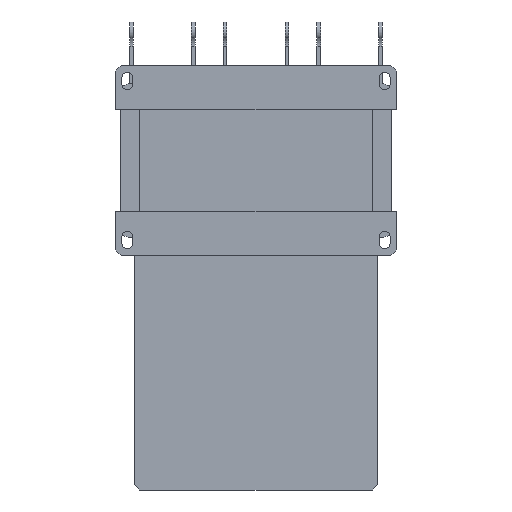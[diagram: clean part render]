
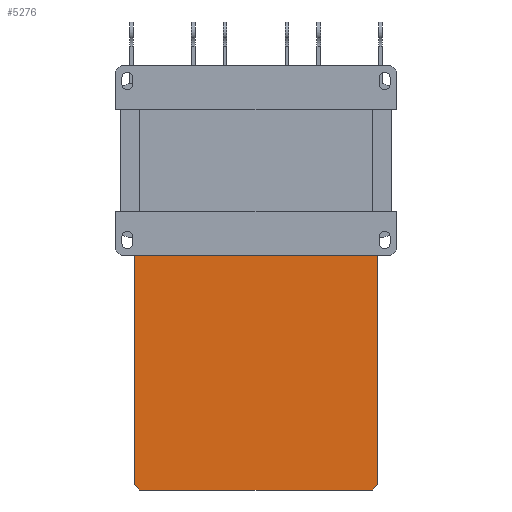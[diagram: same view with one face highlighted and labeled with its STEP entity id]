
A CAD part, front view. The second image highlights one B-rep face of the part: STEP entity #5276.
In plain terms, the highlighted planar face has unit normal (0, -1, 0).
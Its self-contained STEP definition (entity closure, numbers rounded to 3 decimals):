
#592=FACE_OUTER_BOUND('',#936,.T.);
#936=EDGE_LOOP('',(#4325,#4326,#4327,#4328,#4329,#4330));
#1401=LINE('',#8447,#1949);
#1407=LINE('',#8458,#1955);
#1413=LINE('',#8470,#1961);
#1417=LINE('',#8478,#1965);
#1418=LINE('',#8481,#1966);
#1422=LINE('',#8488,#1970);
#1949=VECTOR('',#6887,10.);
#1955=VECTOR('',#6895,10.);
#1961=VECTOR('',#6905,10.);
#1965=VECTOR('',#6911,10.);
#1966=VECTOR('',#6914,10.);
#1970=VECTOR('',#6920,10.);
#2467=VERTEX_POINT('',#8445);
#2468=VERTEX_POINT('',#8446);
#2472=VERTEX_POINT('',#8456);
#2476=VERTEX_POINT('',#8468);
#2479=VERTEX_POINT('',#8476);
#2480=VERTEX_POINT('',#8480);
#3099=EDGE_CURVE('',#2467,#2468,#1401,.T.);
#3105=EDGE_CURVE('',#2467,#2472,#1407,.T.);
#3111=EDGE_CURVE('',#2476,#2472,#1413,.T.);
#3115=EDGE_CURVE('',#2479,#2476,#1417,.T.);
#3116=EDGE_CURVE('',#2468,#2480,#1418,.T.);
#3120=EDGE_CURVE('',#2479,#2480,#1422,.T.);
#4325=ORIENTED_EDGE('',*,*,#3099,.F.);
#4326=ORIENTED_EDGE('',*,*,#3105,.T.);
#4327=ORIENTED_EDGE('',*,*,#3111,.F.);
#4328=ORIENTED_EDGE('',*,*,#3115,.F.);
#4329=ORIENTED_EDGE('',*,*,#3120,.T.);
#4330=ORIENTED_EDGE('',*,*,#3116,.F.);
#5004=PLANE('',#5760);
#5276=ADVANCED_FACE('',(#592),#5004,.T.);
#5760=AXIS2_PLACEMENT_3D('',#8493,#6927,#6928);
#6887=DIRECTION('',(-0.707,0.,0.707));
#6895=DIRECTION('',(1.,0.,0.));
#6905=DIRECTION('',(-0.707,0.,-0.707));
#6911=DIRECTION('',(0.,0.,-1.));
#6914=DIRECTION('',(0.,0.,1.));
#6920=DIRECTION('',(-1.,0.,0.));
#6927=DIRECTION('center_axis',(0.,-1.,0.));
#6928=DIRECTION('ref_axis',(0.,0.,-1.));
#8445=CARTESIAN_POINT('',(-124.,34.,-352.));
#8446=CARTESIAN_POINT('',(-130.,34.,-346.));
#8447=CARTESIAN_POINT('',(-166.875,34.,-309.125));
#8456=CARTESIAN_POINT('',(124.,34.,-352.));
#8458=CARTESIAN_POINT('',(0.,34.,-352.));
#8468=CARTESIAN_POINT('',(130.,34.,-346.));
#8470=CARTESIAN_POINT('',(166.875,34.,-309.125));
#8476=CARTESIAN_POINT('',(130.,34.,-62.5));
#8478=CARTESIAN_POINT('',(130.,34.,-62.5));
#8480=CARTESIAN_POINT('',(-130.,34.,-62.5));
#8481=CARTESIAN_POINT('',(-130.,34.,-62.5));
#8488=CARTESIAN_POINT('',(0.,34.,-62.5));
#8493=CARTESIAN_POINT('Origin',(0.,34.,-62.5));
